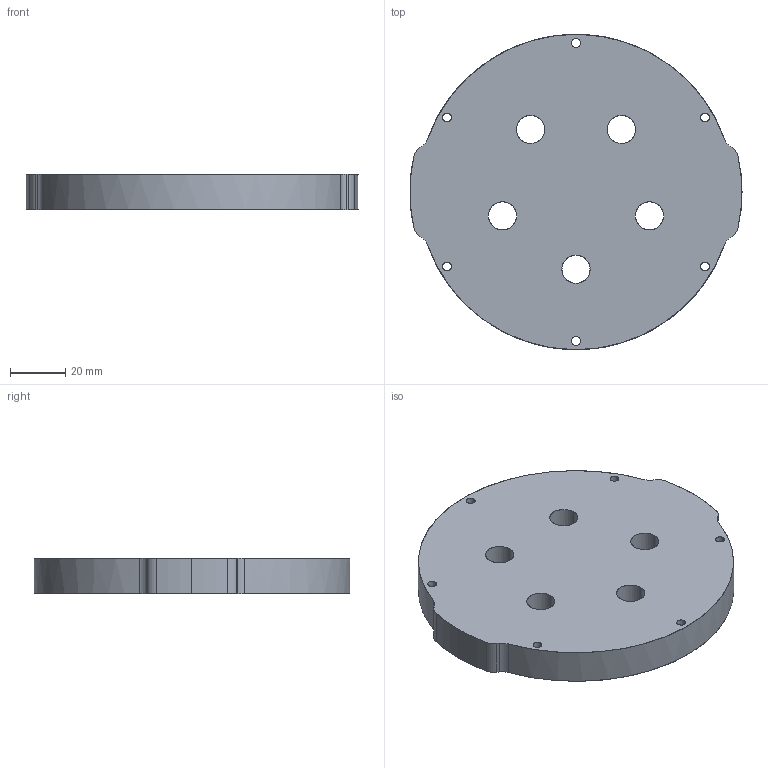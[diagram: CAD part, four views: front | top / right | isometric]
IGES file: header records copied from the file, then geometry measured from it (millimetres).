
Start section: SolidWorks IGES file using NURBS representation for surfaces
Global section: file name: C:\Users\rjehangir\Dropbox\BlueRobotics\BR-Engineering\Models\WTC-4-X2A -PUBLIC\WTC-P-END-CAP-5X10MM-R1.IGS; native system: SolidWorks 2012; preprocessor: SolidWorks 2012; author: rjehangir; date: 150712.193943; units: millimetre
Bounding box: 120.3 x 114.3 x 12.7 mm (x, y, z)
Surface area: 27445.9 mm2 (no closed solid volume)
Topology: 0 solids, 0 shells, 41 faces, 1012 edges, 1012 vertices
Faces by surface type: bspline 41
